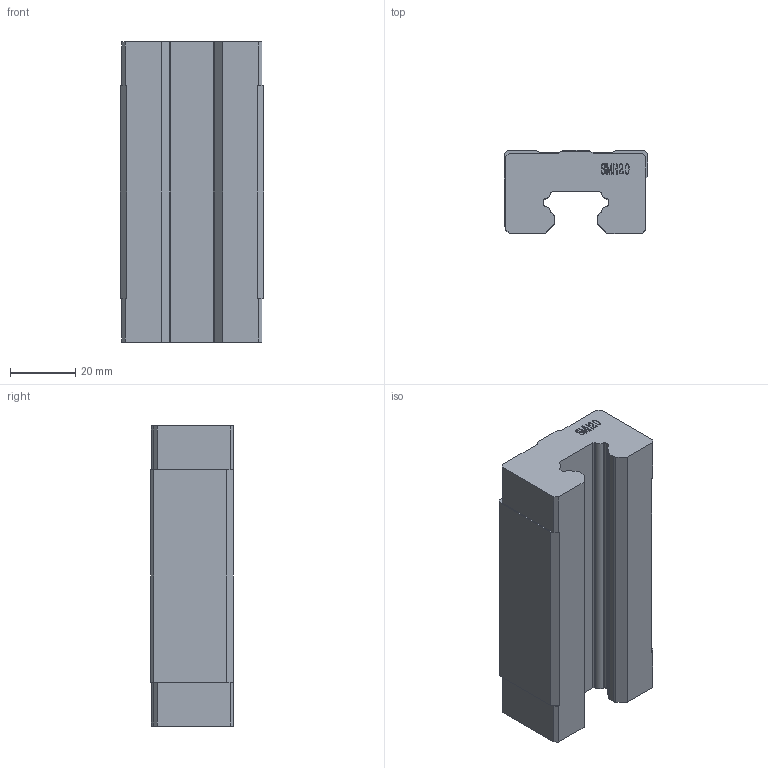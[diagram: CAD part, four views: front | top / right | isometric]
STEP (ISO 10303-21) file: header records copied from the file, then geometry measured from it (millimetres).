
FILE_DESCRIPTION (( 'STEP AP203' ), '1' );
FILE_NAME ('SMH20BL.stp', '2019-09-24T08:51:54', ( 'pgos' ), ( '' ), 'SwSTEP 2.0', 'SolidWorks 2014', '' );
FILE_SCHEMA (( 'CONFIG_CONTROL_DESIGN' ));
Length unit declared in the file: millimetre
Products named in the file (1): SMH20BL
Bounding box: 44 x 25.4 x 92.2 mm (x, y, z)
Volume: 80366.1 mm3; surface area: 17398.6 mm2
Topology: 1 solids, 1 shells, 220 faces, 612 edges, 404 vertices
Faces by surface type: plane 137, bspline 47, cylinder 36
Entity records: 9379 total; most frequent: CARTESIAN_POINT 3916, ORIENTED_EDGE 1224, DIRECTION 938, EDGE_CURVE 612, LINE 446, VECTOR 446, VERTEX_POINT 404, AXIS2_PLACEMENT_3D 246
